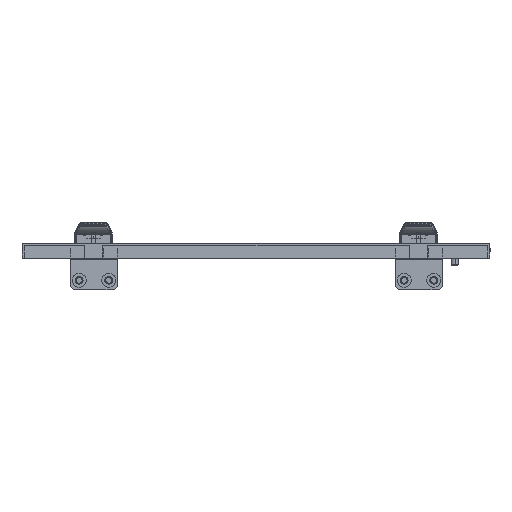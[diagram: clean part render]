
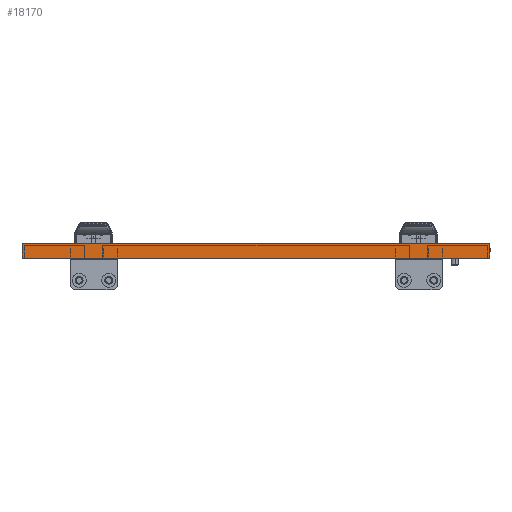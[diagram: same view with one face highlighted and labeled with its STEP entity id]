
A CAD part, left-side view. The second image highlights one B-rep face of the part: STEP entity #18170.
In plain terms, the highlighted planar face has unit normal (-1, 0, 0).
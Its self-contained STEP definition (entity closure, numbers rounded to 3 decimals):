
#180 = VERTEX_POINT ( 'NONE', #4259 ) ;
#778 = ORIENTED_EDGE ( 'NONE', *, *, #14063, .T. ) ;
#1018 = FACE_OUTER_BOUND ( 'NONE', #17474, .T. ) ;
#2812 = CARTESIAN_POINT ( 'NONE',  ( -524.77, -128.047, 1001.001 ) ) ;
#3663 = VERTEX_POINT ( 'NONE', #12401 ) ;
#4259 = CARTESIAN_POINT ( 'NONE',  ( -524.77, -128.047, 998.163 ) ) ;
#4535 = DIRECTION ( 'NONE',  ( 0., 1., 0. ) ) ;
#4699 = DIRECTION ( 'NONE',  ( 0., 0., -1. ) ) ;
#4855 = VECTOR ( 'NONE', #4699, 1000. ) ;
#5201 = EDGE_CURVE ( 'NONE', #9040, #9591, #19023, .T. ) ;
#5779 = EDGE_CURVE ( 'NONE', #180, #9040, #20315, .T. ) ;
#5949 = LINE ( 'NONE', #2812, #20579 ) ;
#5995 = CARTESIAN_POINT ( 'NONE',  ( -524.77, 69.953, 998.163 ) ) ;
#6407 = EDGE_CURVE ( 'NONE', #180, #3663, #5949, .T. ) ;
#7709 = DIRECTION ( 'NONE',  ( 0., 0., -1. ) ) ;
#8339 = CARTESIAN_POINT ( 'NONE',  ( -524.77, 267.953, 998.163 ) ) ;
#9040 = VERTEX_POINT ( 'NONE', #8339 ) ;
#9176 = PLANE ( 'NONE',  #19776 ) ;
#9591 = VERTEX_POINT ( 'NONE', #16482 ) ;
#10858 = DIRECTION ( 'NONE',  ( 0., 0., 1. ) ) ;
#10897 = ORIENTED_EDGE ( 'NONE', *, *, #5201, .T. ) ;
#10987 = CARTESIAN_POINT ( 'NONE',  ( -524.77, 267.953, 1001.001 ) ) ;
#11656 = DIRECTION ( 'NONE',  ( 0., -1., 0. ) ) ;
#12061 = LINE ( 'NONE', #18426, #16766 ) ;
#12401 = CARTESIAN_POINT ( 'NONE',  ( -524.77, -128.047, 985.663 ) ) ;
#13517 = ORIENTED_EDGE ( 'NONE', *, *, #5779, .T. ) ;
#14063 = EDGE_CURVE ( 'NONE', #9591, #3663, #12061, .T. ) ;
#15413 = ORIENTED_EDGE ( 'NONE', *, *, #6407, .F. ) ;
#16482 = CARTESIAN_POINT ( 'NONE',  ( -524.77, 267.953, 985.663 ) ) ;
#16766 = VECTOR ( 'NONE', #11656, 1000. ) ;
#17116 = CARTESIAN_POINT ( 'NONE',  ( -524.77, 228.278, 996.163 ) ) ;
#17474 = EDGE_LOOP ( 'NONE', ( #10897, #778, #15413, #13517 ) ) ;
#18170 = ADVANCED_FACE ( 'NONE', ( #1018 ), #9176, .T. ) ;
#18215 = VECTOR ( 'NONE', #4535, 1000. ) ;
#18426 = CARTESIAN_POINT ( 'NONE',  ( -524.77, 228.278, 985.663 ) ) ;
#18791 = DIRECTION ( 'NONE',  ( -1., 0., 0. ) ) ;
#19023 = LINE ( 'NONE', #10987, #4855 ) ;
#19776 = AXIS2_PLACEMENT_3D ( 'NONE', #17116, #18791, #10858 ) ;
#20315 = LINE ( 'NONE', #5995, #18215 ) ;
#20579 = VECTOR ( 'NONE', #7709, 1000. ) ;
